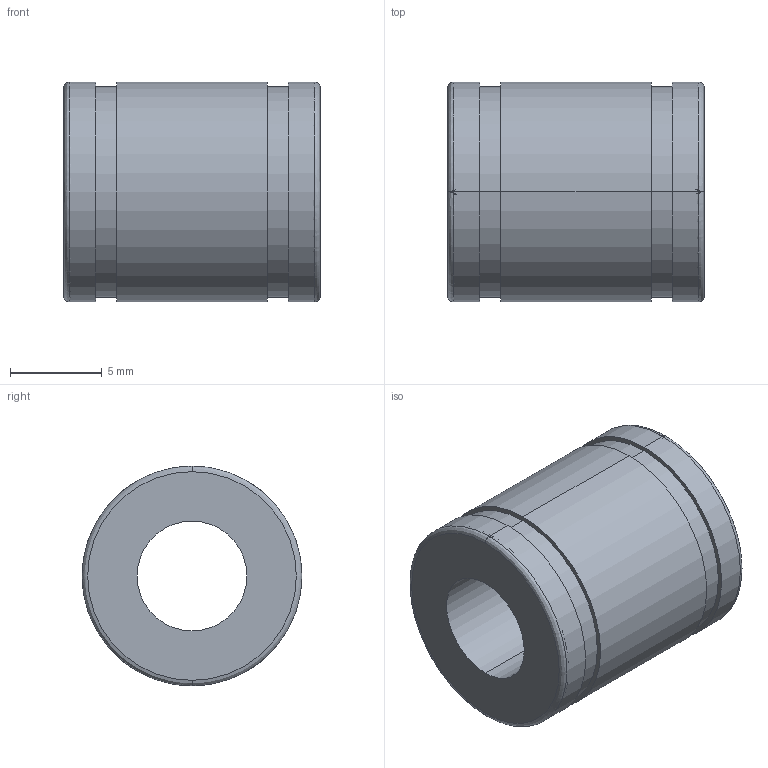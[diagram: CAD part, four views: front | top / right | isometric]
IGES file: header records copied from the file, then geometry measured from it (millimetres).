
Start section: 3D InterOp IGES (Version 21 0 1), Spatial Corp. Copyright (c) 1999-2007.
Global section: file name: N-6VS.igs; native system: Spatial Corp.; preprocessor: 3D InterOp GENERIC/IGES 3.0; author: Noname; organization: Noname; date: 20220311.154215; units: millimetre
Bounding box: 14 x 12 x 12 mm (x, y, z)
Surface area: 1185.1 mm2 (no closed solid volume)
Topology: 0 solids, 0 shells, 22 faces, 96 edges, 92 vertices
Faces by surface type: revolution 16, extrusion 6
